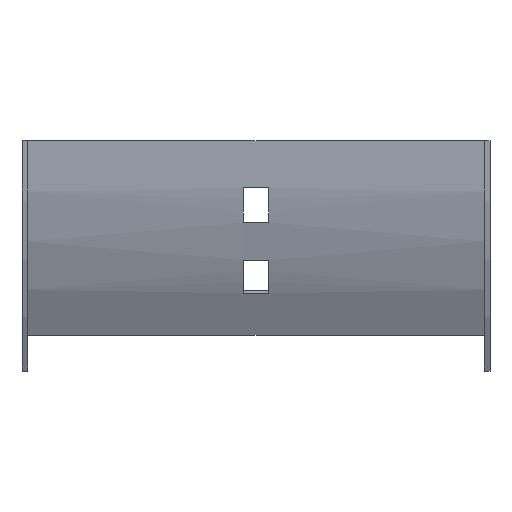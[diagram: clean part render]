
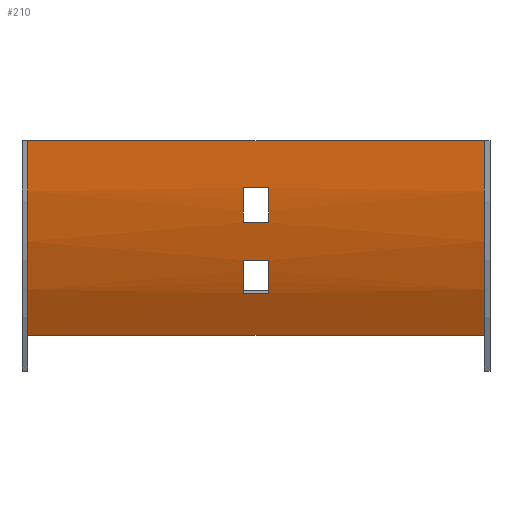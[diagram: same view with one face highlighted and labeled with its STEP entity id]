
A CAD part, front view. The second image highlights one B-rep face of the part: STEP entity #210.
In plain terms, the highlighted cylindrical face has radius 100 mm (diameter 200 mm), a partial arc.
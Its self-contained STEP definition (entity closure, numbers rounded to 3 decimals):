
#12 = ORIENTED_EDGE ( 'NONE', *, *, #606, .T. ) ;
#14 = ORIENTED_EDGE ( 'NONE', *, *, #457, .F. ) ;
#15 = CARTESIAN_POINT ( 'NONE',  ( 58.75, -1.5, 0. ) ) ;
#16 = EDGE_CURVE ( 'NONE', #334, #233, #385, .T. ) ;
#25 = CARTESIAN_POINT ( 'NONE',  ( -3.25, -0.777, -12. ) ) ;
#28 = CARTESIAN_POINT ( 'NONE',  ( 58.75, 11.897, -50. ) ) ;
#34 = VERTEX_POINT ( 'NONE', #223 ) ;
#37 = ORIENTED_EDGE ( 'NONE', *, *, #501, .T. ) ;
#54 = VERTEX_POINT ( 'NONE', #561 ) ;
#64 = DIRECTION ( 'NONE',  ( -1., 0., 0. ) ) ;
#70 = DIRECTION ( 'NONE',  ( 0., 0., 1. ) ) ;
#72 = AXIS2_PLACEMENT_3D ( 'NONE', #291, #64, #70 ) ;
#77 = CIRCLE ( 'NONE', #284, 100. ) ;
#81 = DIRECTION ( 'NONE',  ( 1., 0., 0. ) ) ;
#82 = EDGE_CURVE ( 'NONE', #34, #365, #313, .T. ) ;
#83 = CARTESIAN_POINT ( 'NONE',  ( 3.25, 98.5, 0. ) ) ;
#85 = CARTESIAN_POINT ( 'NONE',  ( 3.25, 98.5, 0. ) ) ;
#103 = DIRECTION ( 'NONE',  ( -1., 0., 0. ) ) ;
#111 = CARTESIAN_POINT ( 'NONE',  ( -3.25, 0.73, -21. ) ) ;
#116 = CARTESIAN_POINT ( 'NONE',  ( 60.25, 0.73, -21. ) ) ;
#117 = CARTESIAN_POINT ( 'NONE',  ( 58.75, 98.5, 0. ) ) ;
#131 = AXIS2_PLACEMENT_3D ( 'NONE', #85, #81, #368 ) ;
#139 = DIRECTION ( 'NONE',  ( -1., 0., 0. ) ) ;
#141 = VERTEX_POINT ( 'NONE', #25 ) ;
#143 = CARTESIAN_POINT ( 'NONE',  ( 58.75, 11.897, -50. ) ) ;
#145 = DIRECTION ( 'NONE',  ( 1., 0., 0. ) ) ;
#152 = CARTESIAN_POINT ( 'NONE',  ( 60.25, 98.5, 0. ) ) ;
#159 = EDGE_CURVE ( 'NONE', #365, #141, #534, .T. ) ;
#173 = ORIENTED_EDGE ( 'NONE', *, *, #373, .F. ) ;
#174 = ORIENTED_EDGE ( 'NONE', *, *, #159, .F. ) ;
#175 = EDGE_CURVE ( 'NONE', #192, #464, #283, .T. ) ;
#181 = ORIENTED_EDGE ( 'NONE', *, *, #396, .T. ) ;
#186 = VECTOR ( 'NONE', #440, 1000. ) ;
#187 = DIRECTION ( 'NONE',  ( 0., 0., -1. ) ) ;
#192 = VERTEX_POINT ( 'NONE', #390 ) ;
#197 = CARTESIAN_POINT ( 'NONE',  ( 60.25, -0.777, -12. ) ) ;
#204 = DIRECTION ( 'NONE',  ( -1., 0., 0. ) ) ;
#210 = ADVANCED_FACE ( 'NONE', ( #342, #480, #238 ), #577, .T. ) ;
#217 = VERTEX_POINT ( 'NONE', #526 ) ;
#223 = CARTESIAN_POINT ( 'NONE',  ( 3.25, 0.73, -21. ) ) ;
#233 = VERTEX_POINT ( 'NONE', #443 ) ;
#238 = FACE_BOUND ( 'NONE', #556, .T. ) ;
#240 = DIRECTION ( 'NONE',  ( -1., 0., 0. ) ) ;
#241 = EDGE_LOOP ( 'NONE', ( #14, #174, #599, #173 ) ) ;
#243 = VERTEX_POINT ( 'NONE', #111 ) ;
#268 = DIRECTION ( 'NONE',  ( -1., 0., 0. ) ) ;
#270 = VERTEX_POINT ( 'NONE', #500 ) ;
#283 = LINE ( 'NONE', #15, #371 ) ;
#284 = AXIS2_PLACEMENT_3D ( 'NONE', #509, #268, #415 ) ;
#290 = DIRECTION ( 'NONE',  ( 0., 0., 1. ) ) ;
#291 = CARTESIAN_POINT ( 'NONE',  ( -58.75, 98.5, 0. ) ) ;
#308 = CARTESIAN_POINT ( 'NONE',  ( 3.25, 3.329, -30.699 ) ) ;
#313 = CIRCLE ( 'NONE', #602, 100. ) ;
#316 = ORIENTED_EDGE ( 'NONE', *, *, #175, .T. ) ;
#317 = VECTOR ( 'NONE', #412, 1000. ) ;
#328 = ORIENTED_EDGE ( 'NONE', *, *, #551, .T. ) ;
#332 = ORIENTED_EDGE ( 'NONE', *, *, #16, .F. ) ;
#334 = VERTEX_POINT ( 'NONE', #28 ) ;
#336 = ORIENTED_EDGE ( 'NONE', *, *, #589, .F. ) ;
#342 = FACE_BOUND ( 'NONE', #241, .T. ) ;
#352 = LINE ( 'NONE', #444, #317 ) ;
#360 = EDGE_LOOP ( 'NONE', ( #336, #332, #328, #316 ) ) ;
#365 = VERTEX_POINT ( 'NONE', #587 ) ;
#368 = DIRECTION ( 'NONE',  ( 0., 0., 1. ) ) ;
#371 = VECTOR ( 'NONE', #103, 1000. ) ;
#373 = EDGE_CURVE ( 'NONE', #243, #34, #544, .T. ) ;
#385 = LINE ( 'NONE', #143, #560 ) ;
#390 = CARTESIAN_POINT ( 'NONE',  ( 58.75, -1.5, 0. ) ) ;
#396 = EDGE_CURVE ( 'NONE', #217, #54, #77, .T. ) ;
#402 = VECTOR ( 'NONE', #545, 1000. ) ;
#410 = CIRCLE ( 'NONE', #72, 100. ) ;
#412 = DIRECTION ( 'NONE',  ( 1., 0., 0. ) ) ;
#415 = DIRECTION ( 'NONE',  ( 0., 0., -1. ) ) ;
#430 = AXIS2_PLACEMENT_3D ( 'NONE', #568, #145, #522 ) ;
#432 = EDGE_CURVE ( 'NONE', #516, #270, #604, .T. ) ;
#435 = LINE ( 'NONE', #582, #186 ) ;
#440 = DIRECTION ( 'NONE',  ( -1., 0., 0. ) ) ;
#442 = AXIS2_PLACEMENT_3D ( 'NONE', #117, #492, #541 ) ;
#443 = CARTESIAN_POINT ( 'NONE',  ( -58.75, 11.897, -50. ) ) ;
#444 = CARTESIAN_POINT ( 'NONE',  ( 60.25, 3.329, -30.699 ) ) ;
#457 = EDGE_CURVE ( 'NONE', #141, #243, #597, .T. ) ;
#464 = VERTEX_POINT ( 'NONE', #598 ) ;
#480 = FACE_OUTER_BOUND ( 'NONE', #360, .T. ) ;
#492 = DIRECTION ( 'NONE',  ( -1., 0., 0. ) ) ;
#496 = AXIS2_PLACEMENT_3D ( 'NONE', #152, #240, #290 ) ;
#500 = CARTESIAN_POINT ( 'NONE',  ( 3.25, 6.523, -39.246 ) ) ;
#501 = EDGE_CURVE ( 'NONE', #54, #516, #352, .T. ) ;
#509 = CARTESIAN_POINT ( 'NONE',  ( -3.25, 98.5, 0. ) ) ;
#516 = VERTEX_POINT ( 'NONE', #308 ) ;
#522 = DIRECTION ( 'NONE',  ( 0., 0., 1. ) ) ;
#523 = ORIENTED_EDGE ( 'NONE', *, *, #432, .T. ) ;
#526 = CARTESIAN_POINT ( 'NONE',  ( -3.25, 6.523, -39.246 ) ) ;
#531 = CIRCLE ( 'NONE', #442, 100. ) ;
#534 = LINE ( 'NONE', #197, #595 ) ;
#541 = DIRECTION ( 'NONE',  ( 0., 0., 1. ) ) ;
#544 = LINE ( 'NONE', #116, #402 ) ;
#545 = DIRECTION ( 'NONE',  ( 1., 0., 0. ) ) ;
#551 = EDGE_CURVE ( 'NONE', #334, #192, #531, .T. ) ;
#556 = EDGE_LOOP ( 'NONE', ( #12, #181, #37, #523 ) ) ;
#560 = VECTOR ( 'NONE', #139, 1000. ) ;
#561 = CARTESIAN_POINT ( 'NONE',  ( -3.25, 3.329, -30.699 ) ) ;
#567 = DIRECTION ( 'NONE',  ( -1., 0., 0. ) ) ;
#568 = CARTESIAN_POINT ( 'NONE',  ( -3.25, 98.5, 0. ) ) ;
#577 = CYLINDRICAL_SURFACE ( 'NONE', #496, 100. ) ;
#582 = CARTESIAN_POINT ( 'NONE',  ( 60.25, 6.523, -39.246 ) ) ;
#587 = CARTESIAN_POINT ( 'NONE',  ( 3.25, -0.777, -12. ) ) ;
#589 = EDGE_CURVE ( 'NONE', #233, #464, #410, .T. ) ;
#595 = VECTOR ( 'NONE', #204, 1000. ) ;
#597 = CIRCLE ( 'NONE', #430, 100. ) ;
#598 = CARTESIAN_POINT ( 'NONE',  ( -58.75, -1.5, 0. ) ) ;
#599 = ORIENTED_EDGE ( 'NONE', *, *, #82, .F. ) ;
#602 = AXIS2_PLACEMENT_3D ( 'NONE', #83, #567, #187 ) ;
#604 = CIRCLE ( 'NONE', #131, 100. ) ;
#606 = EDGE_CURVE ( 'NONE', #270, #217, #435, .T. ) ;
